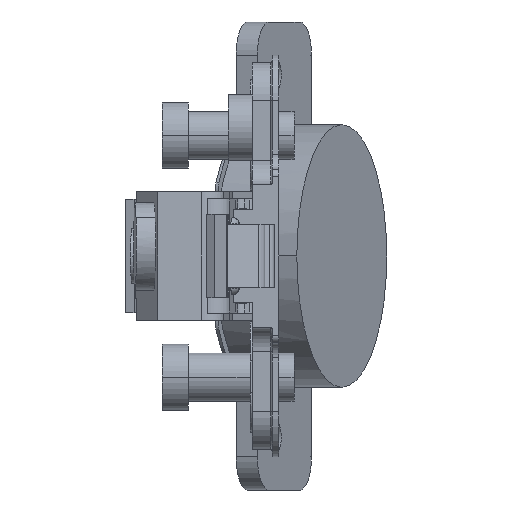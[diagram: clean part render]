
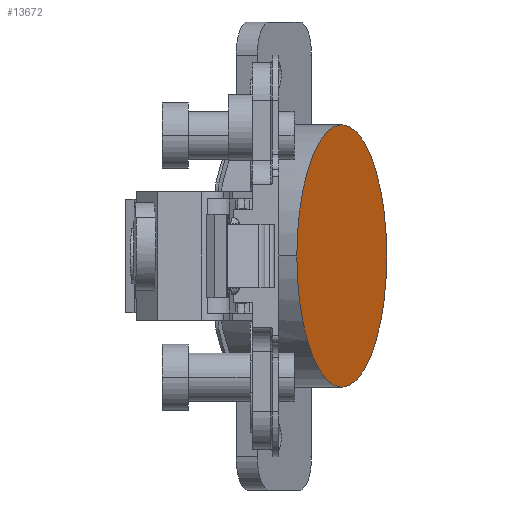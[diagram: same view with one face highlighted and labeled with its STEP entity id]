
A CAD part, left-side view. The second image highlights one B-rep face of the part: STEP entity #13672.
In plain terms, the highlighted planar face has unit normal (-0.342, -0.94, 0).
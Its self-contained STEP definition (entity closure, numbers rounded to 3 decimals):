
#251 = AXIS2_PLACEMENT_3D ( 'NONE', #934, #4873, #13540 ) ;
#934 = CARTESIAN_POINT ( 'NONE',  ( 59.835, -13.605, 0. ) ) ;
#2371 = CARTESIAN_POINT ( 'NONE',  ( 43.484, -7.654, 0. ) ) ;
#4327 = VERTEX_POINT ( 'NONE', #13473 ) ;
#4761 = ORIENTED_EDGE ( 'NONE', *, *, #7000, .T. ) ;
#4873 = DIRECTION ( 'NONE',  ( -0.342, -0.94, 0. ) ) ;
#6161 = EDGE_CURVE ( 'NONE', #15568, #4327, #15914, .T. ) ;
#7000 = EDGE_CURVE ( 'NONE', #4327, #15568, #10323, .T. ) ;
#8396 = ORIENTED_EDGE ( 'NONE', *, *, #6161, .T. ) ;
#10323 = CIRCLE ( 'NONE', #11987, 17.4 ) ;
#10933 = DIRECTION ( 'NONE',  ( -0.342, -0.94, 0. ) ) ;
#11156 = DIRECTION ( 'NONE',  ( 0.94, -0.342, 0. ) ) ;
#11495 = DIRECTION ( 'NONE',  ( 0.94, -0.342, 0. ) ) ;
#11722 = CARTESIAN_POINT ( 'NONE',  ( 59.835, -13.605, 0. ) ) ;
#11987 = AXIS2_PLACEMENT_3D ( 'NONE', #11722, #10933, #11156 ) ;
#12087 = DIRECTION ( 'NONE',  ( -0.342, -0.94, 0. ) ) ;
#12140 = CARTESIAN_POINT ( 'NONE',  ( 59.835, -13.605, 0. ) ) ;
#12324 = PLANE ( 'NONE',  #251 ) ;
#13137 = EDGE_LOOP ( 'NONE', ( #4761, #8396 ) ) ;
#13213 = AXIS2_PLACEMENT_3D ( 'NONE', #12140, #12087, #11495 ) ;
#13473 = CARTESIAN_POINT ( 'NONE',  ( 76.186, -19.556, 0. ) ) ;
#13540 = DIRECTION ( 'NONE',  ( 0.94, -0.342, 0. ) ) ;
#13672 = ADVANCED_FACE ( 'NONE', ( #14198 ), #12324, .T. ) ;
#14198 = FACE_OUTER_BOUND ( 'NONE', #13137, .T. ) ;
#15568 = VERTEX_POINT ( 'NONE', #2371 ) ;
#15914 = CIRCLE ( 'NONE', #13213, 17.4 ) ;
